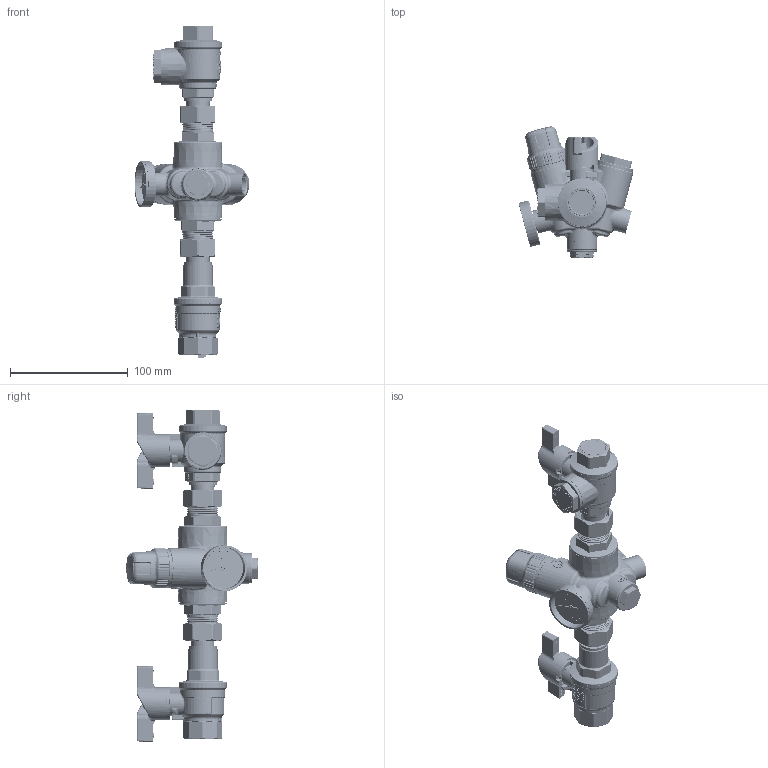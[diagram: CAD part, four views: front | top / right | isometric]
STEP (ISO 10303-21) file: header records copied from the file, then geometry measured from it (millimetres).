
FILE_DESCRIPTION((''),'2;1');
FILE_NAME('TBV_ASS_VAR_1_ASM','2022-10-11T15:10:34',('mirco.molonato'),(''),'CREO PARAMETRIC BY PTC INC, 2022124','CREO PARAMETRIC BY PTC INC, 2022124','');
FILE_SCHEMA(('CONFIG_CONTROL_DESIGN'));
Length unit declared in the file: millimetre
Products named in the file (48): 21165; 21049; 21050; OR_2068_AF0; OR_2068_AF1; OR_1_78X26_70_AF0; OR_1_78X26_70_AF1; 21158; 19151; 21046; 21047; 21048; OR_1_78X26_70_AF2; OR_1_78X26_70_AF3; TERMOMETRO_T40_OR; OR17X2; 21051; 21183; 21182; 22018; 21071; SEDE_PTFE_F20; 09096; 09101; OR_107_AF2; OR_107_AF3; AN_PTFE_SF_20_DEF_AF2; 87167; 21044; GUARN_DEF_23X16X2; 06010; 99186; 12074; 22021; 00128; 22019_ASM; 22305; 22274; OR_107_8X1_5_AF0; OR_107_8X1_5_AF1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
Assembly tree (59 placements, depth 3):
  TBV_ASS_VAR_1_ASM
    21165
    21049
    21050
    OR_2068_AF0
    OR_2068_AF1
    OR_1_78X26_70_AF0
    OR_1_78X26_70_AF1
    21158
    19151
    21046
    21047
    21048
    OR_1_78X26_70_AF2
    OR_1_78X26_70_AF3
    TERMOMETRO_T40_OR
    OR17X2
    21051
    21183  x2
    21182
    22019_ASM
      22018
      21071
      SEDE_PTFE_F20  x2
      09096
      09101
      OR_107_AF2
      OR_107_AF3
      AN_PTFE_SF_20_DEF_AF2
      87167
      21044
      GUARN_DEF_23X16X2
      06010
      99186
      12074
      22021
      00128
    22325_ASM
      22305
      22274
      09101
      OR_107_8X1_5_AF0
      OR_107_8X1_5_AF1
      87167
      SEDE_PTFE_F20  x2
      21153
      12052
      12058_AF0
      AN_PTFE_SF_20_DEF_AF1
      21151
      2_25X22_5
      12074
      22021
      00128
      99186
      06010
      GUARN_DEF_23X16X2
Bounding box: 97.79 x 111.79 x 282.49 mm (x, y, z)
Volume: 269236.7 mm3; surface area: 212924.4 mm2
Topology: 60 solids, 101 shells, 15256 faces, 42348 edges, 27158 vertices
Faces by surface type: plane 5596, extrusion 3276, bspline 3071, cylinder 1918, cone 709, torus 493, sphere 101, revolution 92
Entity records: 596427 total; most frequent: CARTESIAN_POINT 265643, ORIENTED_EDGE 80349, DIRECTION 45879, EDGE_CURVE 40261, VERTEX_POINT 25917, B_SPLINE_CURVE_WITH_KNOTS 23214, VECTOR 17893, EDGE_LOOP 16913
